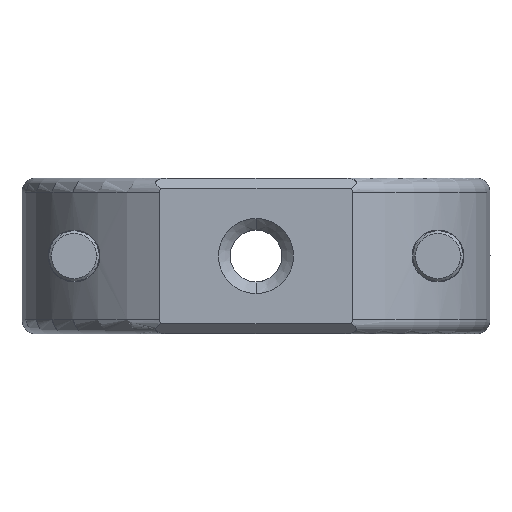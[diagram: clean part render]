
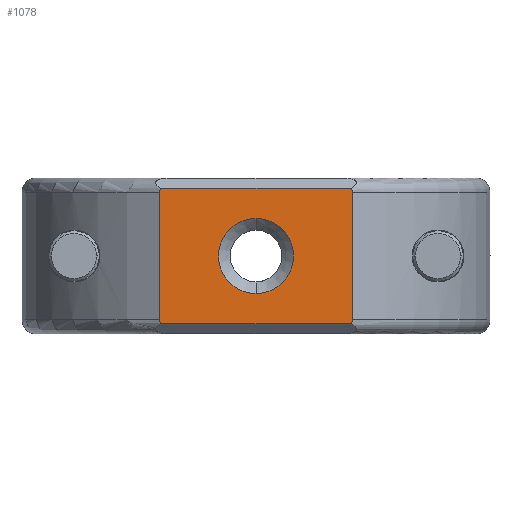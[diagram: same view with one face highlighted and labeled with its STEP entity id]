
A CAD part, front view. The second image highlights one B-rep face of the part: STEP entity #1078.
In plain terms, the highlighted planar face has unit normal (0, -1, 0).
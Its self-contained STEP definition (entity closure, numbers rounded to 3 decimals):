
#3 = ORIENTED_EDGE ( 'NONE', *, *, #1854, .F. ) ;
#4 = EDGE_CURVE ( 'NONE', #1641, #346, #3086, .T. ) ;
#5 = CARTESIAN_POINT ( 'NONE',  ( 9.274, -20.5, 1.35 ) ) ;
#27 = B_SPLINE_CURVE_WITH_KNOTS ( 'NONE', 3,
 ( #490, #175, #1419, #3622 ),
 .UNSPECIFIED., .F., .F.,
 ( 4, 4 ),
 ( 0., 1. ),
 .UNSPECIFIED. ) ;
#79 = PLANE ( 'NONE',  #3258 ) ;
#111 = ORIENTED_EDGE ( 'NONE', *, *, #199, .T. ) ;
#175 = CARTESIAN_POINT ( 'NONE',  ( -9.274, -20.5, 13.768 ) ) ;
#199 = EDGE_CURVE ( 'NONE', #433, #2460, #3652, .T. ) ;
#285 = LINE ( 'NONE', #4010, #3533 ) ;
#327 = ORIENTED_EDGE ( 'NONE', *, *, #1388, .T. ) ;
#338 = CIRCLE ( 'NONE', #2697, 3.61 ) ;
#346 = VERTEX_POINT ( 'NONE', #2931 ) ;
#368 = DIRECTION ( 'NONE',  ( 0., 0., -1. ) ) ;
#412 = VECTOR ( 'NONE', #4082, 1000. ) ;
#433 = VERTEX_POINT ( 'NONE', #3056 ) ;
#490 = CARTESIAN_POINT ( 'NONE',  ( -9.274, -20.5, 13.65 ) ) ;
#504 = LINE ( 'NONE', #2764, #412 ) ;
#548 = VERTEX_POINT ( 'NONE', #3213 ) ;
#565 = EDGE_CURVE ( 'NONE', #2448, #548, #3175, .T. ) ;
#580 = CARTESIAN_POINT ( 'NONE',  ( -9.274, -20.5, 1.35 ) ) ;
#603 = VECTOR ( 'NONE', #2813, 1000. ) ;
#721 = ORIENTED_EDGE ( 'NONE', *, *, #4, .F. ) ;
#775 = EDGE_CURVE ( 'NONE', #2233, #346, #504, .T. ) ;
#824 = CARTESIAN_POINT ( 'NONE',  ( 9.161, -20.5, 14. ) ) ;
#829 = ORIENTED_EDGE ( 'NONE', *, *, #3849, .F. ) ;
#868 = B_SPLINE_CURVE_WITH_KNOTS ( 'NONE', 3,
 ( #824, #3710, #2779, #2765 ),
 .UNSPECIFIED., .F., .F.,
 ( 4, 4 ),
 ( 0., 1. ),
 .UNSPECIFIED. ) ;
#919 = DIRECTION ( 'NONE',  ( 0., -1., 0. ) ) ;
#958 = CARTESIAN_POINT ( 'NONE',  ( -9.236, -20.5, 1.114 ) ) ;
#1078 = ADVANCED_FACE ( 'NONE', ( #2839, #3390 ), #79, .T. ) ;
#1121 = ORIENTED_EDGE ( 'NONE', *, *, #775, .T. ) ;
#1218 = CARTESIAN_POINT ( 'NONE',  ( -9.161, -20.5, 1. ) ) ;
#1388 = EDGE_CURVE ( 'NONE', #1589, #4002, #3292, .T. ) ;
#1419 = CARTESIAN_POINT ( 'NONE',  ( -9.236, -20.5, 13.886 ) ) ;
#1451 = DIRECTION ( 'NONE',  ( 0., -1., 0. ) ) ;
#1491 = CARTESIAN_POINT ( 'NONE',  ( 9.274, -20.5, 13.65 ) ) ;
#1556 = ORIENTED_EDGE ( 'NONE', *, *, #2933, .F. ) ;
#1589 = VERTEX_POINT ( 'NONE', #2290 ) ;
#1641 = VERTEX_POINT ( 'NONE', #2610 ) ;
#1732 = DIRECTION ( 'NONE',  ( 0., 0., -1. ) ) ;
#1843 = CARTESIAN_POINT ( 'NONE',  ( -9.274, -20.5, 15. ) ) ;
#1854 = EDGE_CURVE ( 'NONE', #433, #1892, #868, .T. ) ;
#1892 = VERTEX_POINT ( 'NONE', #1491 ) ;
#1913 = CARTESIAN_POINT ( 'NONE',  ( 0., -20.5, 11.11 ) ) ;
#2003 = EDGE_LOOP ( 'NONE', ( #3, #111, #829, #327, #2239, #1121, #721, #1556 ) ) ;
#2137 = CARTESIAN_POINT ( 'NONE',  ( 9.274, -20.5, 14. ) ) ;
#2182 = CARTESIAN_POINT ( 'NONE',  ( -9.274, -20.5, 1.35 ) ) ;
#2189 = CARTESIAN_POINT ( 'NONE',  ( 0., -20.5, 7.5 ) ) ;
#2233 = VERTEX_POINT ( 'NONE', #1218 ) ;
#2239 = ORIENTED_EDGE ( 'NONE', *, *, #3201, .F. ) ;
#2290 = CARTESIAN_POINT ( 'NONE',  ( -9.274, -20.5, 13.65 ) ) ;
#2324 = DIRECTION ( 'NONE',  ( 0., -1., 0. ) ) ;
#2448 = VERTEX_POINT ( 'NONE', #1913 ) ;
#2460 = VERTEX_POINT ( 'NONE', #2625 ) ;
#2501 = CARTESIAN_POINT ( 'NONE',  ( 9.236, -20.5, 1.114 ) ) ;
#2610 = CARTESIAN_POINT ( 'NONE',  ( 9.274, -20.5, 1.35 ) ) ;
#2625 = CARTESIAN_POINT ( 'NONE',  ( -9.161, -20.5, 14. ) ) ;
#2697 = AXIS2_PLACEMENT_3D ( 'NONE', #3706, #1451, #3675 ) ;
#2764 = CARTESIAN_POINT ( 'NONE',  ( 9.274, -20.5, 1. ) ) ;
#2765 = CARTESIAN_POINT ( 'NONE',  ( 9.274, -20.5, 13.65 ) ) ;
#2779 = CARTESIAN_POINT ( 'NONE',  ( 9.274, -20.5, 13.768 ) ) ;
#2813 = DIRECTION ( 'NONE',  ( -1., 0., 0. ) ) ;
#2839 = FACE_OUTER_BOUND ( 'NONE', #2003, .T. ) ;
#2931 = CARTESIAN_POINT ( 'NONE',  ( 9.161, -20.5, 1. ) ) ;
#2933 = EDGE_CURVE ( 'NONE', #1892, #1641, #285, .T. ) ;
#3015 = EDGE_CURVE ( 'NONE', #548, #2448, #338, .T. ) ;
#3056 = CARTESIAN_POINT ( 'NONE',  ( 9.161, -20.5, 14. ) ) ;
#3086 = B_SPLINE_CURVE_WITH_KNOTS ( 'NONE', 3,
 ( #5, #3192, #2501, #3132 ),
 .UNSPECIFIED., .F., .F.,
 ( 4, 4 ),
 ( 0., 1. ),
 .UNSPECIFIED. ) ;
#3125 = ORIENTED_EDGE ( 'NONE', *, *, #565, .F. ) ;
#3132 = CARTESIAN_POINT ( 'NONE',  ( 9.161, -20.5, 1. ) ) ;
#3146 = ORIENTED_EDGE ( 'NONE', *, *, #3015, .F. ) ;
#3175 = CIRCLE ( 'NONE', #3767, 3.61 ) ;
#3192 = CARTESIAN_POINT ( 'NONE',  ( 9.274, -20.5, 1.232 ) ) ;
#3201 = EDGE_CURVE ( 'NONE', #2233, #4002, #3466, .T. ) ;
#3205 = CARTESIAN_POINT ( 'NONE',  ( -9.161, -20.5, 1. ) ) ;
#3213 = CARTESIAN_POINT ( 'NONE',  ( 0., -20.5, 3.89 ) ) ;
#3237 = VECTOR ( 'NONE', #4066, 1000. ) ;
#3256 = EDGE_LOOP ( 'NONE', ( #3125, #3146 ) ) ;
#3258 = AXIS2_PLACEMENT_3D ( 'NONE', #3897, #2324, #368 ) ;
#3292 = LINE ( 'NONE', #1843, #3237 ) ;
#3390 = FACE_BOUND ( 'NONE', #3256, .T. ) ;
#3466 = B_SPLINE_CURVE_WITH_KNOTS ( 'NONE', 3,
 ( #3205, #958, #3514, #2182 ),
 .UNSPECIFIED., .F., .F.,
 ( 4, 4 ),
 ( 0., 1. ),
 .UNSPECIFIED. ) ;
#3477 = DIRECTION ( 'NONE',  ( 0., 0., -1. ) ) ;
#3514 = CARTESIAN_POINT ( 'NONE',  ( -9.274, -20.5, 1.232 ) ) ;
#3533 = VECTOR ( 'NONE', #1732, 1000. ) ;
#3622 = CARTESIAN_POINT ( 'NONE',  ( -9.161, -20.5, 14. ) ) ;
#3652 = LINE ( 'NONE', #2137, #603 ) ;
#3675 = DIRECTION ( 'NONE',  ( 0., 0., -1. ) ) ;
#3706 = CARTESIAN_POINT ( 'NONE',  ( 0., -20.5, 7.5 ) ) ;
#3710 = CARTESIAN_POINT ( 'NONE',  ( 9.236, -20.5, 13.886 ) ) ;
#3767 = AXIS2_PLACEMENT_3D ( 'NONE', #2189, #919, #3477 ) ;
#3849 = EDGE_CURVE ( 'NONE', #1589, #2460, #27, .T. ) ;
#3897 = CARTESIAN_POINT ( 'NONE',  ( 9.274, -20.5, 15. ) ) ;
#4002 = VERTEX_POINT ( 'NONE', #580 ) ;
#4010 = CARTESIAN_POINT ( 'NONE',  ( 9.274, -20.5, 15. ) ) ;
#4066 = DIRECTION ( 'NONE',  ( 0., 0., -1. ) ) ;
#4082 = DIRECTION ( 'NONE',  ( 1., 0., 0. ) ) ;
